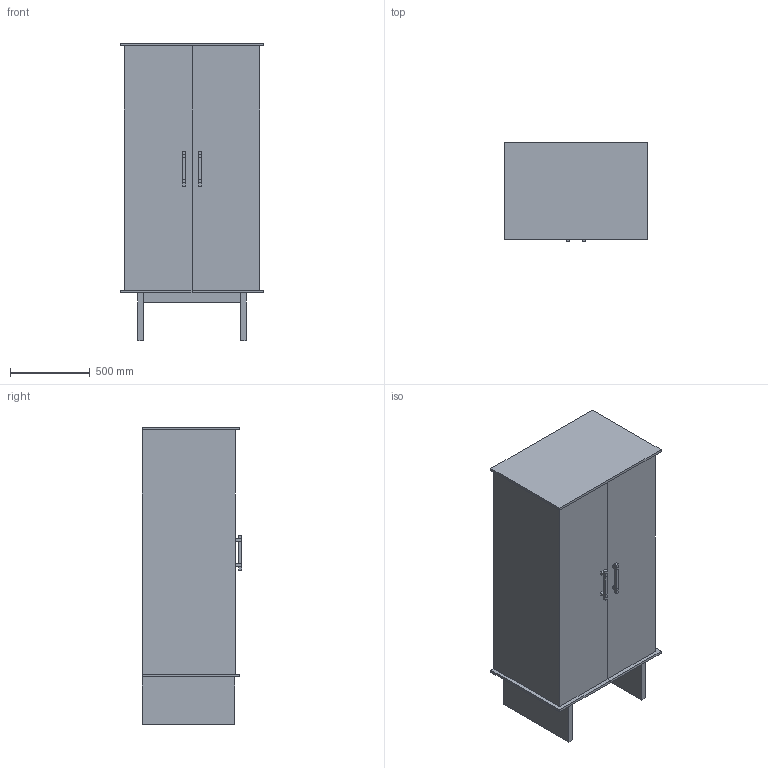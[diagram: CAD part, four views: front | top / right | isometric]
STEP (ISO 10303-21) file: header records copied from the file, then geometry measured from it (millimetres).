
FILE_DESCRIPTION(/* description */ (''),/* implementation_level */ '2;1');
FILE_NAME(/* name */ 'Stilt Wardobe_3D',/* time_stamp */ '2025-07-23T14:14:53+02:00',/* author */ (''),/* organization */ (''),/* preprocessor_version */ 'ST-DEVELOPER v16.5',/* originating_system */ 'Rhino 7.38',/* authorisation */ '');
FILE_SCHEMA (('CONFIG_CONTROL_DESIGN'));
Length unit declared in the file: millimetre
Products named in the file (1): Document
Bounding box: 900 x 625 x 1866 mm (x, y, z)
Volume: 99046962.3 mm3; surface area: 13520560.3 mm2
Topology: 25 solids, 29 shells, 202 faces, 428 edges, 286 vertices
Faces by surface type: plane 174, cylinder 28
Entity records: 4799 total; most frequent: CARTESIAN_POINT 1512, ORIENTED_EDGE 832, EDGE_CURVE 424, B_SPLINE_CURVE_WITH_KNOTS 348, VERTEX_POINT 288, EDGE_LOOP 214, DIRECTION 210, AXIS2_PLACEMENT_3D 206
